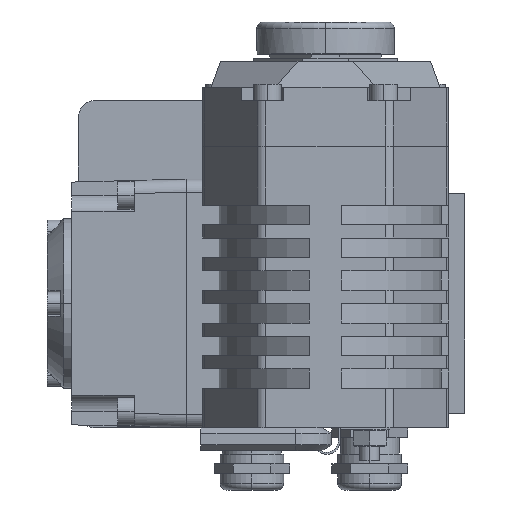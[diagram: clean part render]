
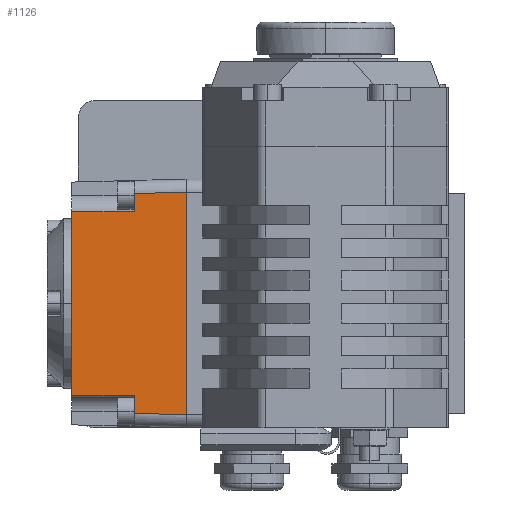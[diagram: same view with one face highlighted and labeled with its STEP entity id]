
A CAD part, left-side view. The second image highlights one B-rep face of the part: STEP entity #1126.
In plain terms, the highlighted planar face has unit normal (-1, 0.026, 0).
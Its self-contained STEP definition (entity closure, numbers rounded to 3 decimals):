
#7=CARTESIAN_POINT('',(-60.,0.,34.001));
#37=CARTESIAN_POINT('',(-60.,0.,-34.001));
#45=DIRECTION('',(0.,0.,1.));
#46=VECTOR('',#45,68.003);
#47=CARTESIAN_POINT('',(-60.,0.,-34.001));
#48=LINE('',#47,#46);
#184=DIRECTION('',(0.,0.,1.));
#185=VECTOR('',#184,56.);
#186=CARTESIAN_POINT('',(-59.083,35.,-28.));
#187=LINE('',#186,#185);
#251=DIRECTION('',(0.,0.,1.));
#252=VECTOR('',#251,5.582);
#253=CARTESIAN_POINT('',(-59.581,16.,-33.582));
#254=LINE('',#253,#252);
#255=DIRECTION('',(-0.026,-1.,0.));
#256=VECTOR('',#255,19.007);
#257=CARTESIAN_POINT('',(-59.083,35.,-28.));
#258=LINE('',#257,#256);
#259=DIRECTION('',(-0.026,-1.,0.));
#260=VECTOR('',#259,19.007);
#261=CARTESIAN_POINT('',(-59.083,35.,28.));
#262=LINE('',#261,#260);
#263=DIRECTION('',(0.,0.,1.));
#264=VECTOR('',#263,5.582);
#265=CARTESIAN_POINT('',(-59.581,16.,28.));
#266=LINE('',#265,#264);
#267=DIRECTION('',(0.026,0.999,-0.026));
#268=VECTOR('',#267,16.011);
#269=CARTESIAN_POINT('',(-60.,0.,34.001));
#270=LINE('',#269,#268);
#271=DIRECTION('',(0.026,0.999,0.026));
#272=VECTOR('',#271,16.011);
#273=CARTESIAN_POINT('',(-60.,0.,-34.001));
#274=LINE('',#273,#272);
#652=VERTEX_POINT('',#7);
#655=VERTEX_POINT('',#37);
#675=CARTESIAN_POINT('',(-59.581,16.,-33.582));
#676=CARTESIAN_POINT('',(-59.581,16.,-28.));
#677=VERTEX_POINT('',#675);
#678=VERTEX_POINT('',#676);
#679=CARTESIAN_POINT('',(-59.581,16.,28.));
#680=CARTESIAN_POINT('',(-59.581,16.,33.582));
#681=VERTEX_POINT('',#679);
#682=VERTEX_POINT('',#680);
#695=CARTESIAN_POINT('',(-59.083,35.,-28.));
#696=CARTESIAN_POINT('',(-59.083,35.,28.));
#697=VERTEX_POINT('',#695);
#698=VERTEX_POINT('',#696);
#1109=CARTESIAN_POINT('',(-59.542,17.5,0.));
#1110=DIRECTION('',(-1.,0.026,0.));
#1111=DIRECTION('',(-0.026,-1.,0.));
#1112=AXIS2_PLACEMENT_3D('',#1109,#1110,#1111);
#1113=PLANE('',#1112);
#1114=ORIENTED_EDGE('',*,*,#907,.T.);
#1115=ORIENTED_EDGE('',*,*,#1102,.F.);
#1116=ORIENTED_EDGE('',*,*,#995,.T.);
#1118=ORIENTED_EDGE('',*,*,#1117,.T.);
#1119=ORIENTED_EDGE('',*,*,#919,.T.);
#1120=ORIENTED_EDGE('',*,*,#849,.F.);
#1121=ORIENTED_EDGE('',*,*,#834,.F.);
#1123=ORIENTED_EDGE('',*,*,#1122,.T.);
#1124=EDGE_LOOP('',(#1114,#1115,#1116,#1118,#1119,#1120,#1121,#1123));
#1125=FACE_OUTER_BOUND('',#1124,.F.);
#1126=ADVANCED_FACE('',(#1125),#1113,.T.);
#834=EDGE_CURVE('',#655,#652,#48,.T.);
#849=EDGE_CURVE('',#652,#682,#270,.T.);
#907=EDGE_CURVE('',#677,#678,#254,.T.);
#919=EDGE_CURVE('',#681,#682,#266,.T.);
#995=EDGE_CURVE('',#697,#698,#187,.T.);
#1102=EDGE_CURVE('',#697,#678,#258,.T.);
#1117=EDGE_CURVE('',#698,#681,#262,.T.);
#1122=EDGE_CURVE('',#655,#677,#274,.T.);
